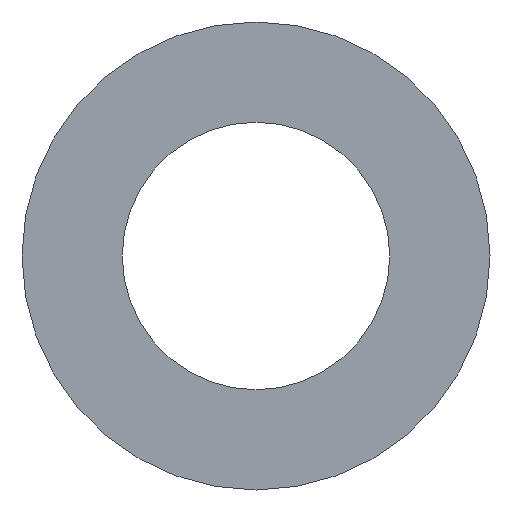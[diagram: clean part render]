
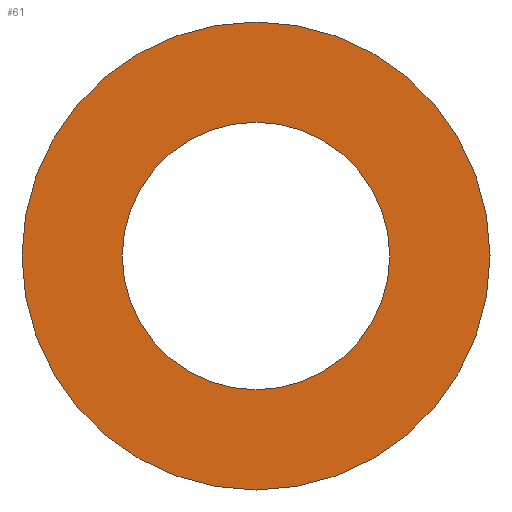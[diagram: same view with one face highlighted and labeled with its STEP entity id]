
A CAD part, front view. The second image highlights one B-rep face of the part: STEP entity #61.
In plain terms, the highlighted planar face has unit normal (0, -1, 0).
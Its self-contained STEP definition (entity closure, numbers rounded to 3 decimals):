
#19=PLANE('',#77);
#23=FACE_BOUND('',#35,.T.);
#27=FACE_OUTER_BOUND('',#34,.T.);
#34=EDGE_LOOP('',(#54));
#35=EDGE_LOOP('',(#55));
#37=CIRCLE('',#72,4.);
#39=CIRCLE('',#75,7.);
#41=VERTEX_POINT('',#100);
#43=VERTEX_POINT('',#105);
#45=EDGE_CURVE('',#41,#41,#37,.T.);
#47=EDGE_CURVE('',#43,#43,#39,.T.);
#54=ORIENTED_EDGE('',*,*,#47,.F.);
#55=ORIENTED_EDGE('',*,*,#45,.T.);
#61=ADVANCED_FACE('',(#27,#23),#19,.F.);
#72=AXIS2_PLACEMENT_3D('',#101,#84,#85);
#75=AXIS2_PLACEMENT_3D('',#106,#90,#91);
#77=AXIS2_PLACEMENT_3D('',#108,#94,#95);
#84=DIRECTION('center_axis',(0.,1.,0.));
#85=DIRECTION('ref_axis',(0.,0.,1.));
#90=DIRECTION('center_axis',(0.,1.,0.));
#91=DIRECTION('ref_axis',(0.,0.,1.));
#94=DIRECTION('center_axis',(0.,1.,0.));
#95=DIRECTION('ref_axis',(0.,0.,1.));
#100=CARTESIAN_POINT('',(0.,0.,-4.));
#101=CARTESIAN_POINT('Origin',(0.,0.,0.));
#105=CARTESIAN_POINT('',(0.,0.,-7.));
#106=CARTESIAN_POINT('Origin',(0.,0.,0.));
#108=CARTESIAN_POINT('Origin',(0.,0.,0.));
